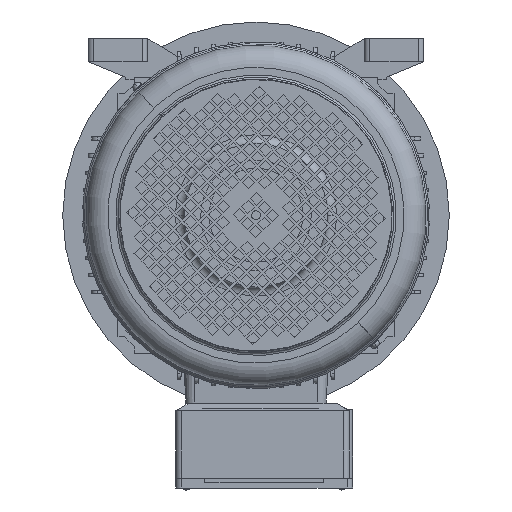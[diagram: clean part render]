
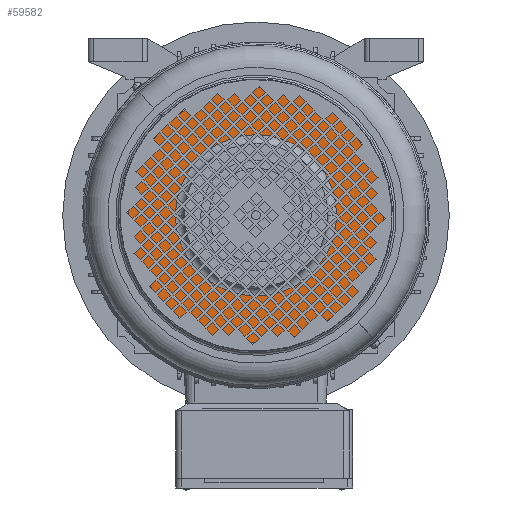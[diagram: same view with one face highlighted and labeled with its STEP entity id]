
A CAD part, front view. The second image highlights one B-rep face of the part: STEP entity #59582.
In plain terms, the highlighted planar face has unit normal (0, -1, 0).
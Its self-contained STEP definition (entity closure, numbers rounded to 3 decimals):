
#2177 = CARTESIAN_POINT ( 'NONE',  ( 0., -4.723, 115.607 ) ) ;
#2489 = CARTESIAN_POINT ( 'NONE',  ( 0., -4.723, -73. ) ) ;
#3188 = EDGE_LOOP ( 'NONE', ( #70923, #6963 ) ) ;
#3583 = DIRECTION ( 'NONE',  ( 0., -1., 0. ) ) ;
#6963 = ORIENTED_EDGE ( 'NONE', *, *, #30936, .T. ) ;
#7027 = EDGE_LOOP ( 'NONE', ( #57448, #15269 ) ) ;
#10547 = DIRECTION ( 'NONE',  ( 0., 0., 1. ) ) ;
#11753 = CARTESIAN_POINT ( 'NONE',  ( 0., -4.723, 73. ) ) ;
#14596 = VERTEX_POINT ( 'NONE', #2489 ) ;
#15269 = ORIENTED_EDGE ( 'NONE', *, *, #88254, .F. ) ;
#17167 = CIRCLE ( 'NONE', #76105, 115.607 ) ;
#17465 = CIRCLE ( 'NONE', #36581, 73. ) ;
#17491 = DIRECTION ( 'NONE',  ( 0., 0., -1. ) ) ;
#24177 = DIRECTION ( 'NONE',  ( 0., 1., 0. ) ) ;
#24931 = DIRECTION ( 'NONE',  ( 0., 1., 0. ) ) ;
#30182 = DIRECTION ( 'NONE',  ( 0., 1., 0. ) ) ;
#30936 = EDGE_CURVE ( 'NONE', #14596, #70109, #49743, .T. ) ;
#31256 = DIRECTION ( 'NONE',  ( 0., 0., 1. ) ) ;
#36581 = AXIS2_PLACEMENT_3D ( 'NONE', #72011, #24177, #10547 ) ;
#37038 = DIRECTION ( 'NONE',  ( 0., 1., 0. ) ) ;
#37381 = DIRECTION ( 'NONE',  ( 0., 0., 1. ) ) ;
#37992 = PLANE ( 'NONE',  #49629 ) ;
#44234 = EDGE_CURVE ( 'NONE', #70109, #14596, #17465, .T. ) ;
#45138 = VERTEX_POINT ( 'NONE', #2177 ) ;
#49629 = AXIS2_PLACEMENT_3D ( 'NONE', #58737, #3583, #17491 ) ;
#49743 = CIRCLE ( 'NONE', #89121, 73. ) ;
#52183 = CIRCLE ( 'NONE', #81030, 115.607 ) ;
#53805 = EDGE_CURVE ( 'NONE', #45138, #54963, #52183, .T. ) ;
#54963 = VERTEX_POINT ( 'NONE', #80415 ) ;
#57448 = ORIENTED_EDGE ( 'NONE', *, *, #53805, .F. ) ;
#58737 = CARTESIAN_POINT ( 'NONE',  ( -73., -4.723, 0. ) ) ;
#59582 = ADVANCED_FACE ( 'NONE', ( #78597, #60294 ), #37992, .T. ) ;
#60294 = FACE_OUTER_BOUND ( 'NONE', #7027, .T. ) ;
#65290 = DIRECTION ( 'NONE',  ( 0., 0., 1. ) ) ;
#70109 = VERTEX_POINT ( 'NONE', #11753 ) ;
#70923 = ORIENTED_EDGE ( 'NONE', *, *, #44234, .T. ) ;
#72011 = CARTESIAN_POINT ( 'NONE',  ( 0., -4.723, 0. ) ) ;
#76105 = AXIS2_PLACEMENT_3D ( 'NONE', #78250, #37038, #65290 ) ;
#78250 = CARTESIAN_POINT ( 'NONE',  ( 0., -4.723, 0. ) ) ;
#78597 = FACE_BOUND ( 'NONE', #3188, .T. ) ;
#80415 = CARTESIAN_POINT ( 'NONE',  ( 0., -4.723, -115.607 ) ) ;
#81030 = AXIS2_PLACEMENT_3D ( 'NONE', #84939, #30182, #37381 ) ;
#84939 = CARTESIAN_POINT ( 'NONE',  ( 0., -4.723, 0. ) ) ;
#86613 = CARTESIAN_POINT ( 'NONE',  ( 0., -4.723, 0. ) ) ;
#88254 = EDGE_CURVE ( 'NONE', #54963, #45138, #17167, .T. ) ;
#89121 = AXIS2_PLACEMENT_3D ( 'NONE', #86613, #24931, #31256 ) ;
